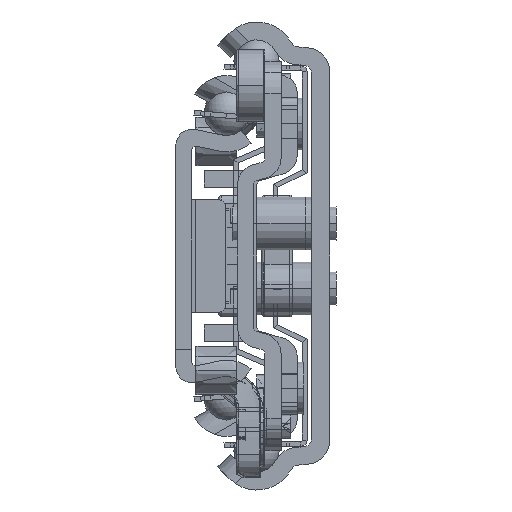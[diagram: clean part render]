
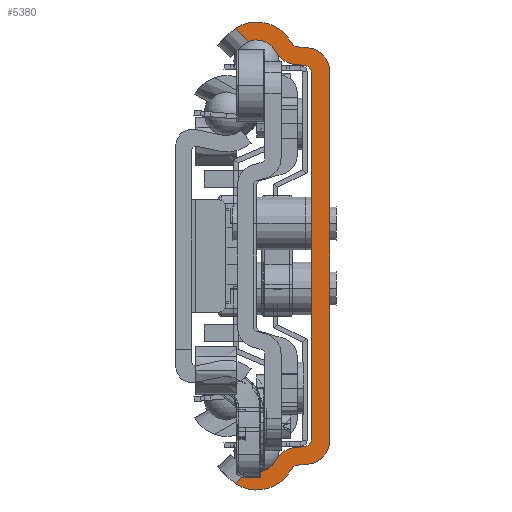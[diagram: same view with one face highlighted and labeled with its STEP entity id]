
A CAD part, left-side view. The second image highlights one B-rep face of the part: STEP entity #5380.
In plain terms, the highlighted planar face has unit normal (-1, 0, 0).
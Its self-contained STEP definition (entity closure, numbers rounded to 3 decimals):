
#1=DIRECTION('',(0.,0.717,-0.697));
#2=VECTOR('',#1,2.305);
#3=CARTESIAN_POINT('',(-600.,9.972,-26.461));
#4=LINE('',#3,#2);
#5=CARTESIAN_POINT('',(-600.,9.,-24.05));
#6=DIRECTION('',(-1.,0.,0.));
#7=DIRECTION('',(0.,0.374,-0.927));
#8=AXIS2_PLACEMENT_3D('',#5,#6,#7);
#10=CARTESIAN_POINT('',(-600.,4.005,-26.582));
#11=DIRECTION('',(-1.,0.,0.));
#12=DIRECTION('',(0.,0.07,0.998));
#13=AXIS2_PLACEMENT_3D('',#10,#11,#12);
#15=DIRECTION('',(0.,-0.998,0.07));
#16=VECTOR('',#15,1.087);
#17=CARTESIAN_POINT('',(-600.,4.214,-23.589));
#18=LINE('',#17,#16);
#19=DIRECTION('',(0.,0.,1.));
#20=VECTOR('',#19,45.032);
#21=CARTESIAN_POINT('',(-600.,2.2,-22.516));
#22=LINE('',#21,#20);
#23=DIRECTION('',(0.,0.998,0.07));
#24=VECTOR('',#23,1.087);
#25=CARTESIAN_POINT('',(-600.,3.13,23.514));
#26=LINE('',#25,#24);
#27=CARTESIAN_POINT('',(-600.,4.005,26.582));
#28=DIRECTION('',(-1.,0.,0.));
#29=DIRECTION('',(0.,0.892,-0.452));
#30=AXIS2_PLACEMENT_3D('',#27,#28,#29);
#32=CARTESIAN_POINT('',(-600.,9.,24.05));
#33=DIRECTION('',(-1.,0.,0.));
#34=DIRECTION('',(0.,-0.892,0.452));
#35=AXIS2_PLACEMENT_3D('',#32,#33,#34);
#37=DIRECTION('',(0.,-0.717,-0.697));
#38=VECTOR('',#37,2.305);
#39=CARTESIAN_POINT('',(-600.,11.624,28.069));
#40=LINE('',#39,#38);
#41=CARTESIAN_POINT('',(-600.,9.,24.05));
#42=DIRECTION('',(1.,0.,0.));
#43=DIRECTION('',(0.,0.547,0.837));
#44=AXIS2_PLACEMENT_3D('',#41,#42,#43);
#46=DIRECTION('',(0.,-0.998,-0.07));
#47=VECTOR('',#46,1.161);
#48=CARTESIAN_POINT('',(-600.,3.949,25.776));
#49=LINE('',#48,#47);
#50=CARTESIAN_POINT('',(-600.,3.,22.702));
#51=DIRECTION('',(-1.,0.,0.));
#52=DIRECTION('',(0.,-1.,0.));
#53=AXIS2_PLACEMENT_3D('',#50,#51,#52);
#55=DIRECTION('',(0.,0.,-1.));
#56=VECTOR('',#55,45.405);
#57=CARTESIAN_POINT('',(-600.,0.,22.702));
#58=LINE('',#57,#56);
#59=CARTESIAN_POINT('',(-600.,3.,-22.702));
#60=DIRECTION('',(-1.,0.,0.));
#61=DIRECTION('',(0.,-0.07,-0.998));
#62=AXIS2_PLACEMENT_3D('',#59,#60,#61);
#64=DIRECTION('',(0.,0.998,-0.07));
#65=VECTOR('',#64,1.161);
#66=CARTESIAN_POINT('',(-600.,2.791,-25.695));
#67=LINE('',#66,#65);
#68=CARTESIAN_POINT('',(-600.,9.,-24.05));
#69=DIRECTION('',(1.,0.,0.));
#70=DIRECTION('',(0.,-0.883,-0.47));
#71=AXIS2_PLACEMENT_3D('',#68,#69,#70);
#79=CARTESIAN_POINT('',(-600.,11.624,-28.069));
#103=CARTESIAN_POINT('',(-600.,9.972,-26.461));
#195=CARTESIAN_POINT('',(-600.,11.624,28.069));
#201=CARTESIAN_POINT('',(-600.,3.879,26.774));
#202=DIRECTION('',(1.,0.,0.));
#203=DIRECTION('',(0.,0.07,-0.998));
#204=AXIS2_PLACEMENT_3D('',#201,#202,#203);
#1227=CARTESIAN_POINT('',(-600.,3.879,-26.774));
#1228=DIRECTION('',(1.,0.,0.));
#1229=DIRECTION('',(0.,0.883,0.47));
#1230=AXIS2_PLACEMENT_3D('',#1227,#1228,#1229);
#2322=CARTESIAN_POINT('',(-600.,3.2,-22.516));
#2323=DIRECTION('',(1.,0.,0.));
#2324=DIRECTION('',(0.,-1.,0.));
#2325=AXIS2_PLACEMENT_3D('',#2322,#2323,#2324);
#2340=CARTESIAN_POINT('',(-600.,3.2,22.516));
#2341=DIRECTION('',(1.,0.,0.));
#2342=DIRECTION('',(0.,-0.07,0.998));
#2343=AXIS2_PLACEMENT_3D('',#2340,#2341,#2342);
#2364=CARTESIAN_POINT('',(-600.,9.972,26.461));
#4197=CARTESIAN_POINT('',(-600.,2.2,-22.516));
#4199=VERTEX_POINT('',#4197);
#4201=CARTESIAN_POINT('',(-600.,3.13,-23.514));
#4203=VERTEX_POINT('',#4201);
#4205=CARTESIAN_POINT('',(-600.,3.13,23.514));
#4207=VERTEX_POINT('',#4205);
#4209=CARTESIAN_POINT('',(-600.,2.2,22.516));
#4211=VERTEX_POINT('',#4209);
#4213=CARTESIAN_POINT('',(-600.,3.949,25.776));
#4215=VERTEX_POINT('',#4213);
#4217=CARTESIAN_POINT('',(-600.,4.762,26.304));
#4219=VERTEX_POINT('',#4217);
#4221=CARTESIAN_POINT('',(-600.,4.762,-26.304));
#4223=VERTEX_POINT('',#4221);
#4225=CARTESIAN_POINT('',(-600.,3.949,-25.776));
#4227=VERTEX_POINT('',#4225);
#4229=CARTESIAN_POINT('',(-600.,4.214,-23.589));
#4230=CARTESIAN_POINT('',(-600.,6.681,-25.226));
#4231=VERTEX_POINT('',#4229);
#4232=VERTEX_POINT('',#4230);
#4237=CARTESIAN_POINT('',(-600.,6.681,25.226));
#4238=CARTESIAN_POINT('',(-600.,4.214,23.589));
#4239=VERTEX_POINT('',#4237);
#4240=VERTEX_POINT('',#4238);
#4245=CARTESIAN_POINT('',(-600.,0.,22.702));
#4246=CARTESIAN_POINT('',(-600.,2.791,25.695));
#4247=VERTEX_POINT('',#4245);
#4248=VERTEX_POINT('',#4246);
#4253=CARTESIAN_POINT('',(-600.,2.791,-25.695));
#4254=CARTESIAN_POINT('',(-600.,0.,-22.702));
#4255=VERTEX_POINT('',#4253);
#4256=VERTEX_POINT('',#4254);
#4603=VERTEX_POINT('',#79);
#4611=VERTEX_POINT('',#103);
#4612=VERTEX_POINT('',#2364);
#4620=VERTEX_POINT('',#195);
#5333=CARTESIAN_POINT('',(-600.,0.,0.));
#5334=DIRECTION('',(1.,0.,0.));
#5335=DIRECTION('',(0.,-1.,0.));
#5336=AXIS2_PLACEMENT_3D('',#5333,#5334,#5335);
#5337=PLANE('',#5336);
#5339=ORIENTED_EDGE('',*,*,#5338,.F.);
#5341=ORIENTED_EDGE('',*,*,#5340,.T.);
#5343=ORIENTED_EDGE('',*,*,#5342,.F.);
#5345=ORIENTED_EDGE('',*,*,#5344,.T.);
#5347=ORIENTED_EDGE('',*,*,#5346,.F.);
#5349=ORIENTED_EDGE('',*,*,#5348,.T.);
#5351=ORIENTED_EDGE('',*,*,#5350,.F.);
#5353=ORIENTED_EDGE('',*,*,#5352,.T.);
#5355=ORIENTED_EDGE('',*,*,#5354,.F.);
#5357=ORIENTED_EDGE('',*,*,#5356,.T.);
#5359=ORIENTED_EDGE('',*,*,#5358,.F.);
#5361=ORIENTED_EDGE('',*,*,#5360,.T.);
#5363=ORIENTED_EDGE('',*,*,#5362,.F.);
#5365=ORIENTED_EDGE('',*,*,#5364,.T.);
#5367=ORIENTED_EDGE('',*,*,#5366,.F.);
#5369=ORIENTED_EDGE('',*,*,#5368,.T.);
#5371=ORIENTED_EDGE('',*,*,#5370,.F.);
#5373=ORIENTED_EDGE('',*,*,#5372,.T.);
#5375=ORIENTED_EDGE('',*,*,#5374,.F.);
#5377=ORIENTED_EDGE('',*,*,#5376,.T.);
#5378=EDGE_LOOP('',(#5339,#5341,#5343,#5345,#5347,#5349,#5351,#5353,#5355,#5357,
#5359,#5361,#5363,#5365,#5367,#5369,#5371,#5373,#5375,#5377));
#5379=FACE_OUTER_BOUND('',#5378,.F.);
#5380=ADVANCED_FACE('',(#5379),#5337,.F.);
#9=CIRCLE('',#8,2.6);
#14=CIRCLE('',#13,3.);
#31=CIRCLE('',#30,3.);
#36=CIRCLE('',#35,2.6);
#45=CIRCLE('',#44,4.8);
#54=CIRCLE('',#53,3.);
#63=CIRCLE('',#62,3.);
#72=CIRCLE('',#71,4.8);
#205=CIRCLE('',#204,1.);
#1231=CIRCLE('',#1230,1.);
#2326=CIRCLE('',#2325,1.);
#2344=CIRCLE('',#2343,1.);
#5338=EDGE_CURVE('',#4611,#4603,#4,.T.);
#5340=EDGE_CURVE('',#4611,#4232,#9,.T.);
#5342=EDGE_CURVE('',#4231,#4232,#14,.T.);
#5344=EDGE_CURVE('',#4231,#4203,#18,.T.);
#5346=EDGE_CURVE('',#4199,#4203,#2326,.T.);
#5348=EDGE_CURVE('',#4199,#4211,#22,.T.);
#5350=EDGE_CURVE('',#4207,#4211,#2344,.T.);
#5352=EDGE_CURVE('',#4207,#4240,#26,.T.);
#5354=EDGE_CURVE('',#4239,#4240,#31,.T.);
#5356=EDGE_CURVE('',#4239,#4612,#36,.T.);
#5358=EDGE_CURVE('',#4620,#4612,#40,.T.);
#5360=EDGE_CURVE('',#4620,#4219,#45,.T.);
#5362=EDGE_CURVE('',#4215,#4219,#205,.T.);
#5364=EDGE_CURVE('',#4215,#4248,#49,.T.);
#5366=EDGE_CURVE('',#4247,#4248,#54,.T.);
#5368=EDGE_CURVE('',#4247,#4256,#58,.T.);
#5370=EDGE_CURVE('',#4255,#4256,#63,.T.);
#5372=EDGE_CURVE('',#4255,#4227,#67,.T.);
#5374=EDGE_CURVE('',#4223,#4227,#1231,.T.);
#5376=EDGE_CURVE('',#4223,#4603,#72,.T.);
